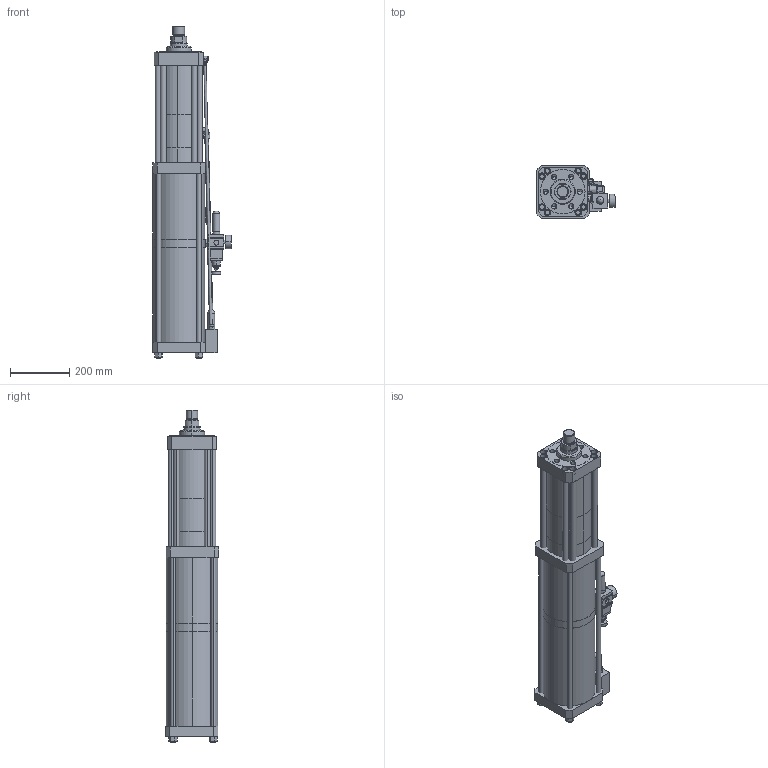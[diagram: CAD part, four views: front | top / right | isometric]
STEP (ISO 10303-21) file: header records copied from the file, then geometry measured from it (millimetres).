
FILE_DESCRIPTION (( 'STEP AP214' ), '1' );
FILE_NAME ('BS20-100-12A.STEP', '2025-10-08T07:26:49', ( 'Ranlm' ), ( '' ), 'SwSTEP 2.0', 'SolidWorks 2022', '' );
FILE_SCHEMA (( 'AUTOMOTIVE_DESIGN' ));
Length unit declared in the file: millimetre
Products named in the file (1): BS20-100-12A
Bounding box: 264.26 x 179 x 1119 mm (x, y, z)
Volume: 25349762.8 mm3; surface area: 1421455 mm2
Topology: 38 solids, 38 shells, 784 faces, 1728 edges, 1067 vertices
Faces by surface type: plane 339, cylinder 288, cone 108, torus 34, bspline 12, sphere 3
Entity records: 32166 total; most frequent: CARTESIAN_POINT 5686, DIRECTION 3837, ORIENTED_EDGE 3374, EDGE_CURVE 1687, AXIS2_PLACEMENT_3D 1501, VERTEX_POINT 1063, EDGE_LOOP 914, VECTOR 835
